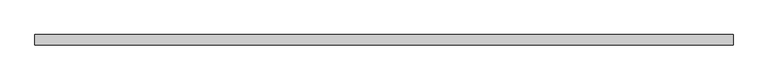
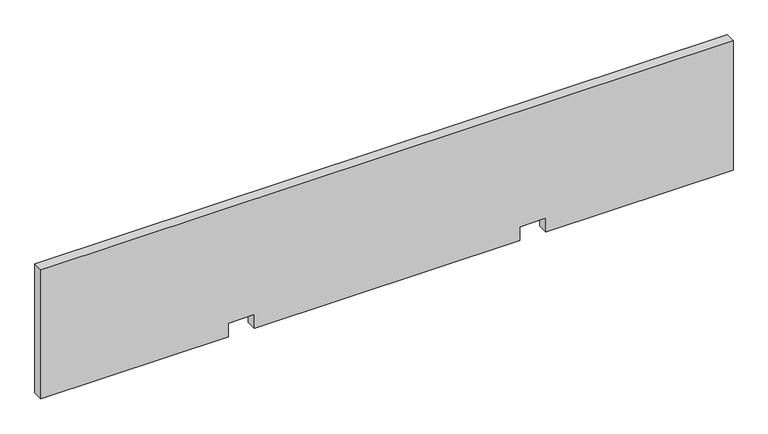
"""IFC4 building model written with IfcOpenShell, lengths in millimetres: proxy geometry."""

from ifc_helpers import new_model, si_unit, frame, origin, place, context, project, spatial, polyline, outline, extrude, source, transform, mapped, element, save


def specialty_equipment_30a90bc0(model_context):
    return source(origin(), model_context, "Body", "SweptSolid", [
        extrude(outline(polyline([(238.252, -603.25), (0.0, -603.25), (0.0, -276.9266291), (25.4635, -276.9266291), (25.4635, -231.0733709), (0.0, -231.0733709), (0.0, 231.0733709), (25.4635, 231.0733709), (25.4635, 276.9266291), (0.0, 276.9266291), (0.0, 603.25), (238.252, 603.25), (238.252, -603.25)])), frame((0.0, -9.017, 0.0), z_axis=(0.0, 1.0, 0.0), x_axis=(0.0, 0.0, 1.0)), (0.0, 0.0, 1.0), 18.034),
    ])


if __name__ == "__main__":
    model = new_model("IFC4")
    model_context = context("Model", 3, world=origin())
    ifc_project = project(units=[si_unit("LENGTHUNIT", "METRE", prefix="MILLI")], contexts=[model_context])
    site = spatial("IfcSite", under=ifc_project)
    building = spatial("IfcBuilding", under=site)
    placement = place(None, origin())
    specialty_equipment_shape = specialty_equipment_30a90bc0(model_context)
    element("IfcBuildingElementProxy", 1, Name="SE_TIMBER BAFFLE_SINGLE_FB_TURF : 47.5\" - FELTLOCK", ObjectType="SE_TIMBER BAFFLE_SINGLE_FB_TURF : 47.5\" - FELTLOCK", at=placement, inside=building, context=model_context, shape_type="MappedRepresentation", body=[
        mapped(specialty_equipment_shape, transform((0.0, 0.0, 0.0), x_axis=(1.0, 0.0, 0.0), y_axis=(0.0, 1.0, 0.0), z_axis=(0.0, 0.0, 1.0))),
    ])
    save(model, "model.ifc")
